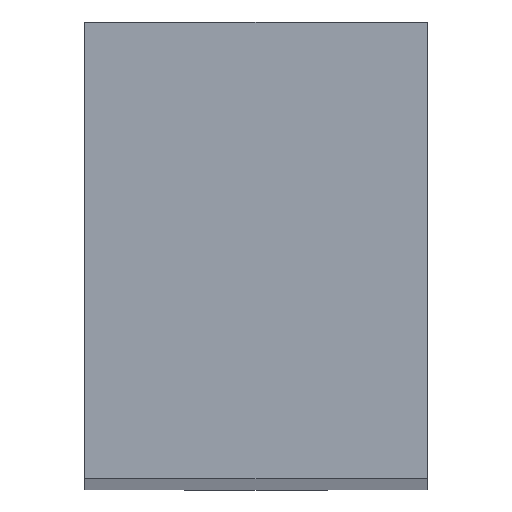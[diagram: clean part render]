
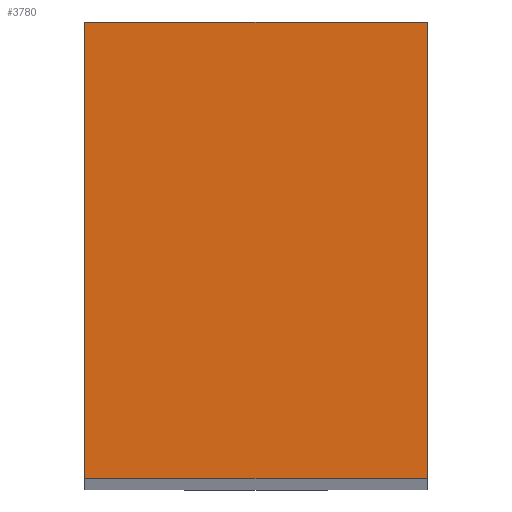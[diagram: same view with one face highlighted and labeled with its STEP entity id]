
A CAD part, top view. The second image highlights one B-rep face of the part: STEP entity #3780.
In plain terms, the highlighted planar face has unit normal (0, 0, 1).
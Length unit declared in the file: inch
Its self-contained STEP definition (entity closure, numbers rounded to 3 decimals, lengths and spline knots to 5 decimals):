
#71 = CARTESIAN_POINT ( 'NONE',  ( 21.04823, 0.6811, 15.41732 ) ) ;
#403 = AXIS2_PLACEMENT_3D ( 'NONE', #5142, #7513, #3943 ) ;
#413 = LINE ( 'NONE', #4014, #6333 ) ;
#497 = FACE_OUTER_BOUND ( 'NONE', #7508, .T. ) ;
#632 = VERTEX_POINT ( 'NONE', #5316 ) ;
#1591 = CARTESIAN_POINT ( 'NONE',  ( 21.29823, 1.6811, 15.41732 ) ) ;
#2184 = DIRECTION ( 'NONE',  ( 1., 0., 0. ) ) ;
#2189 = DIRECTION ( 'NONE',  ( 0., -1., 0. ) ) ;
#2270 = ORIENTED_EDGE ( 'NONE', *, *, #6997, .F. ) ;
#2454 = VERTEX_POINT ( 'NONE', #1591 ) ;
#2898 = VERTEX_POINT ( 'NONE', #5326 ) ;
#3334 = CARTESIAN_POINT ( 'NONE',  ( 20.54823, 1.0561, 15.41732 ) ) ;
#3780 = ADVANCED_FACE ( 'NONE', ( #497 ), #4057, .F. ) ;
#3943 = DIRECTION ( 'NONE',  ( -1., 0., 0. ) ) ;
#3973 = CARTESIAN_POINT ( 'NONE',  ( 20.54823, 0.6811, 15.41732 ) ) ;
#4014 = CARTESIAN_POINT ( 'NONE',  ( 20.80512, 1.6811, 15.41732 ) ) ;
#4057 = PLANE ( 'NONE',  #403 ) ;
#4259 = VERTEX_POINT ( 'NONE', #3973 ) ;
#4661 = LINE ( 'NONE', #7384, #5730 ) ;
#5141 = LINE ( 'NONE', #71, #7194 ) ;
#5142 = CARTESIAN_POINT ( 'NONE',  ( 20.80512, 0.27559, 15.41732 ) ) ;
#5316 = CARTESIAN_POINT ( 'NONE',  ( 21.29823, 0.6811, 15.41732 ) ) ;
#5326 = CARTESIAN_POINT ( 'NONE',  ( 20.54823, 1.6811, 15.41732 ) ) ;
#5360 = EDGE_CURVE ( 'NONE', #632, #4259, #5141, .T. ) ;
#5683 = EDGE_CURVE ( 'NONE', #2898, #2454, #413, .T. ) ;
#5730 = VECTOR ( 'NONE', #2189, 39.37008 ) ;
#5810 = LINE ( 'NONE', #3334, #7456 ) ;
#5902 = ORIENTED_EDGE ( 'NONE', *, *, #5360, .F. ) ;
#6210 = ORIENTED_EDGE ( 'NONE', *, *, #5683, .F. ) ;
#6333 = VECTOR ( 'NONE', #2184, 39.37008 ) ;
#6359 = DIRECTION ( 'NONE',  ( 0., 1., 0. ) ) ;
#6532 = DIRECTION ( 'NONE',  ( -1., 0., 0. ) ) ;
#6793 = ORIENTED_EDGE ( 'NONE', *, *, #7638, .F. ) ;
#6997 = EDGE_CURVE ( 'NONE', #4259, #2898, #5810, .T. ) ;
#7194 = VECTOR ( 'NONE', #6532, 39.37008 ) ;
#7384 = CARTESIAN_POINT ( 'NONE',  ( 21.29823, 1.3061, 15.41732 ) ) ;
#7456 = VECTOR ( 'NONE', #6359, 39.37008 ) ;
#7508 = EDGE_LOOP ( 'NONE', ( #2270, #5902, #6793, #6210 ) ) ;
#7513 = DIRECTION ( 'NONE',  ( 0., 0., -1. ) ) ;
#7638 = EDGE_CURVE ( 'NONE', #2454, #632, #4661, .T. ) ;
